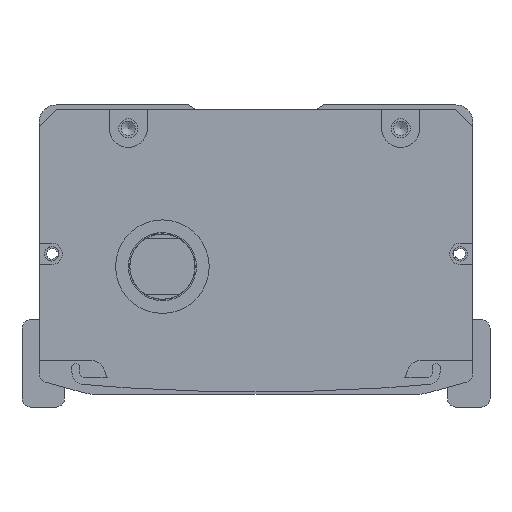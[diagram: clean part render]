
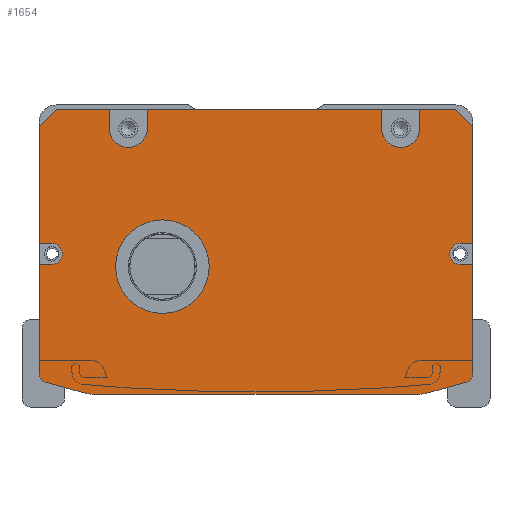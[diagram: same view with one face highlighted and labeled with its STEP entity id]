
A CAD part, front view. The second image highlights one B-rep face of the part: STEP entity #1654.
In plain terms, the highlighted planar face has unit normal (0, -1, 0).
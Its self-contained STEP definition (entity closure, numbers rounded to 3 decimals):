
#990=FACE_BOUND('',#3118,.T.);
#991=FACE_BOUND('',#3119,.T.);
#1654=ADVANCED_FACE('',(#990,#991),#2265,.F.);
#2265=PLANE('',#11995);
#3118=EDGE_LOOP('',(#5507,#5508,#5509,#5510,#5511,#5512,#5513,#5514,#5515,
#5516,#5517,#5518,#5519,#5520,#5521,#5522,#5523,#5524,#5525,#5526,#5527,
#5528,#5529,#5530,#5531,#5532,#5533,#5534));
#3119=EDGE_LOOP('',(#5535));
#4097=CIRCLE('',#11986,4.5);
#4098=CIRCLE('',#11987,4.5);
#4099=CIRCLE('',#11988,2.5);
#4100=CIRCLE('',#11989,2.);
#4101=CIRCLE('',#11990,10.);
#4102=CIRCLE('',#11991,10.);
#4103=CIRCLE('',#11992,2.);
#4104=CIRCLE('',#11993,2.5);
#4105=CIRCLE('',#11994,11.);
#5507=ORIENTED_EDGE('',*,*,#8872,.T.);
#5508=ORIENTED_EDGE('',*,*,#9290,.T.);
#5509=ORIENTED_EDGE('',*,*,#9291,.T.);
#5510=ORIENTED_EDGE('',*,*,#9292,.F.);
#5511=ORIENTED_EDGE('',*,*,#9293,.T.);
#5512=ORIENTED_EDGE('',*,*,#9294,.F.);
#5513=ORIENTED_EDGE('',*,*,#9295,.T.);
#5514=ORIENTED_EDGE('',*,*,#9296,.F.);
#5515=ORIENTED_EDGE('',*,*,#9297,.T.);
#5516=ORIENTED_EDGE('',*,*,#9298,.F.);
#5517=ORIENTED_EDGE('',*,*,#9299,.T.);
#5518=ORIENTED_EDGE('',*,*,#9300,.T.);
#5519=ORIENTED_EDGE('',*,*,#8904,.T.);
#5520=ORIENTED_EDGE('',*,*,#9301,.T.);
#5521=ORIENTED_EDGE('',*,*,#9302,.T.);
#5522=ORIENTED_EDGE('',*,*,#9303,.T.);
#5523=ORIENTED_EDGE('',*,*,#8900,.T.);
#5524=ORIENTED_EDGE('',*,*,#9304,.T.);
#5525=ORIENTED_EDGE('',*,*,#9305,.T.);
#5526=ORIENTED_EDGE('',*,*,#9306,.T.);
#5527=ORIENTED_EDGE('',*,*,#9307,.T.);
#5528=ORIENTED_EDGE('',*,*,#9308,.T.);
#5529=ORIENTED_EDGE('',*,*,#9309,.T.);
#5530=ORIENTED_EDGE('',*,*,#9310,.T.);
#5531=ORIENTED_EDGE('',*,*,#8876,.T.);
#5532=ORIENTED_EDGE('',*,*,#9311,.T.);
#5533=ORIENTED_EDGE('',*,*,#9312,.T.);
#5534=ORIENTED_EDGE('',*,*,#9313,.T.);
#5535=ORIENTED_EDGE('',*,*,#9314,.T.);
#7734=VERTEX_POINT('',#16532);
#7735=VERTEX_POINT('',#16534);
#7738=VERTEX_POINT('',#16540);
#7739=VERTEX_POINT('',#16542);
#7760=VERTEX_POINT('',#16587);
#7761=VERTEX_POINT('',#16589);
#7764=VERTEX_POINT('',#16595);
#7765=VERTEX_POINT('',#16597);
#8030=VERTEX_POINT('',#17394);
#8031=VERTEX_POINT('',#17396);
#8032=VERTEX_POINT('',#17398);
#8033=VERTEX_POINT('',#17400);
#8034=VERTEX_POINT('',#17402);
#8035=VERTEX_POINT('',#17404);
#8036=VERTEX_POINT('',#17406);
#8037=VERTEX_POINT('',#17408);
#8038=VERTEX_POINT('',#17410);
#8039=VERTEX_POINT('',#17412);
#8040=VERTEX_POINT('',#17415);
#8041=VERTEX_POINT('',#17417);
#8042=VERTEX_POINT('',#17420);
#8043=VERTEX_POINT('',#17422);
#8044=VERTEX_POINT('',#17424);
#8045=VERTEX_POINT('',#17426);
#8046=VERTEX_POINT('',#17428);
#8047=VERTEX_POINT('',#17430);
#8048=VERTEX_POINT('',#17433);
#8049=VERTEX_POINT('',#17435);
#8050=VERTEX_POINT('',#17438);
#8872=EDGE_CURVE('',#7735,#7734,#10323,.T.);
#8876=EDGE_CURVE('',#7739,#7738,#10327,.T.);
#8900=EDGE_CURVE('',#7761,#7760,#10351,.T.);
#8904=EDGE_CURVE('',#7765,#7764,#10355,.T.);
#9290=EDGE_CURVE('',#7734,#8030,#10588,.T.);
#9291=EDGE_CURVE('',#8030,#8031,#10589,.T.);
#9292=EDGE_CURVE('',#8032,#8031,#10590,.T.);
#9293=EDGE_CURVE('',#8032,#8033,#4097,.T.);
#9294=EDGE_CURVE('',#8034,#8033,#10591,.T.);
#9295=EDGE_CURVE('',#8034,#8035,#10592,.T.);
#9296=EDGE_CURVE('',#8036,#8035,#10593,.T.);
#9297=EDGE_CURVE('',#8036,#8037,#4098,.T.);
#9298=EDGE_CURVE('',#8038,#8037,#10594,.T.);
#9299=EDGE_CURVE('',#8038,#8039,#10595,.T.);
#9300=EDGE_CURVE('',#8039,#7765,#10596,.T.);
#9301=EDGE_CURVE('',#7764,#8040,#10597,.T.);
#9302=EDGE_CURVE('',#8040,#8041,#4099,.T.);
#9303=EDGE_CURVE('',#8041,#7761,#10598,.T.);
#9304=EDGE_CURVE('',#7760,#8042,#4100,.T.);
#9305=EDGE_CURVE('',#8042,#8043,#10599,.T.);
#9306=EDGE_CURVE('',#8043,#8044,#4101,.T.);
#9307=EDGE_CURVE('',#8044,#8045,#10600,.T.);
#9308=EDGE_CURVE('',#8045,#8046,#4102,.T.);
#9309=EDGE_CURVE('',#8046,#8047,#10601,.T.);
#9310=EDGE_CURVE('',#8047,#7739,#4103,.T.);
#9311=EDGE_CURVE('',#7738,#8048,#10602,.T.);
#9312=EDGE_CURVE('',#8048,#8049,#4104,.T.);
#9313=EDGE_CURVE('',#8049,#7735,#10603,.T.);
#9314=EDGE_CURVE('',#8050,#8050,#4105,.T.);
#10323=LINE('',#16533,#10976);
#10327=LINE('',#16541,#10980);
#10351=LINE('',#16588,#11004);
#10355=LINE('',#16596,#11008);
#10588=LINE('',#17393,#11241);
#10589=LINE('',#17395,#11242);
#10590=LINE('',#17397,#11243);
#10591=LINE('',#17401,#11244);
#10592=LINE('',#17403,#11245);
#10593=LINE('',#17405,#11246);
#10594=LINE('',#17409,#11247);
#10595=LINE('',#17411,#11248);
#10596=LINE('',#17413,#11249);
#10597=LINE('',#17414,#11250);
#10598=LINE('',#17418,#11251);
#10599=LINE('',#17421,#11252);
#10600=LINE('',#17425,#11253);
#10601=LINE('',#17429,#11254);
#10602=LINE('',#17432,#11255);
#10603=LINE('',#17436,#11256);
#10976=VECTOR('',#13198,1.);
#10980=VECTOR('',#13202,1.);
#11004=VECTOR('',#13228,1.);
#11008=VECTOR('',#13232,1.);
#11241=VECTOR('',#14063,1.);
#11242=VECTOR('',#14064,1.);
#11243=VECTOR('',#14065,1.);
#11244=VECTOR('',#14068,1.);
#11245=VECTOR('',#14069,1.);
#11246=VECTOR('',#14070,1.);
#11247=VECTOR('',#14073,1.);
#11248=VECTOR('',#14074,1.);
#11249=VECTOR('',#14075,1.);
#11250=VECTOR('',#14076,1.);
#11251=VECTOR('',#14079,1.);
#11252=VECTOR('',#14082,1.);
#11253=VECTOR('',#14085,1.);
#11254=VECTOR('',#14088,1.);
#11255=VECTOR('',#14091,1.);
#11256=VECTOR('',#14094,1.);
#11986=AXIS2_PLACEMENT_3D('',#17399,#14066,#14067);
#11987=AXIS2_PLACEMENT_3D('',#17407,#14071,#14072);
#11988=AXIS2_PLACEMENT_3D('',#17416,#14077,#14078);
#11989=AXIS2_PLACEMENT_3D('',#17419,#14080,#14081);
#11990=AXIS2_PLACEMENT_3D('',#17423,#14083,#14084);
#11991=AXIS2_PLACEMENT_3D('',#17427,#14086,#14087);
#11992=AXIS2_PLACEMENT_3D('',#17431,#14089,#14090);
#11993=AXIS2_PLACEMENT_3D('',#17434,#14092,#14093);
#11994=AXIS2_PLACEMENT_3D('',#17437,#14095,#14096);
#11995=AXIS2_PLACEMENT_3D('',#17439,#14097,#14098);
#13198=DIRECTION('',(0.,0.,1.));
#13202=DIRECTION('',(0.,0.,1.));
#13228=DIRECTION('',(0.,0.,-1.));
#13232=DIRECTION('',(0.,0.,-1.));
#14063=DIRECTION('',(-0.707,0.,0.707));
#14064=DIRECTION('',(-1.,0.,0.));
#14065=DIRECTION('',(0.,0.,1.));
#14066=DIRECTION('',(0.,1.,0.));
#14067=DIRECTION('',(0.,0.,1.));
#14068=DIRECTION('',(0.,0.,-1.));
#14069=DIRECTION('',(-1.,0.,0.));
#14070=DIRECTION('',(0.,0.,1.));
#14071=DIRECTION('',(0.,1.,0.));
#14072=DIRECTION('',(0.,0.,1.));
#14073=DIRECTION('',(0.,0.,-1.));
#14074=DIRECTION('',(-1.,0.,0.));
#14075=DIRECTION('',(-0.707,0.,-0.707));
#14076=DIRECTION('',(1.,0.,0.));
#14077=DIRECTION('',(0.,1.,0.));
#14078=DIRECTION('',(0.,0.,1.));
#14079=DIRECTION('',(-1.,0.,0.));
#14080=DIRECTION('',(0.,-1.,0.));
#14081=DIRECTION('',(0.,0.,1.));
#14082=DIRECTION('',(0.963,0.,-0.269));
#14083=DIRECTION('',(0.,-1.,0.));
#14084=DIRECTION('',(0.,0.,1.));
#14085=DIRECTION('',(1.,0.,0.));
#14086=DIRECTION('',(0.,-1.,0.));
#14087=DIRECTION('',(0.,0.,-1.));
#14088=DIRECTION('',(0.963,0.,0.269));
#14089=DIRECTION('',(0.,-1.,0.));
#14090=DIRECTION('',(0.,0.,-1.));
#14091=DIRECTION('',(-1.,0.,0.));
#14092=DIRECTION('',(0.,1.,0.));
#14093=DIRECTION('',(0.,0.,1.));
#14094=DIRECTION('',(1.,0.,0.));
#14095=DIRECTION('',(0.,1.,0.));
#14096=DIRECTION('',(0.,0.,1.));
#14097=DIRECTION('',(0.,1.,0.));
#14098=DIRECTION('',(1.,0.,0.));
#16532=CARTESIAN_POINT('',(47.808,-557.5,-5.));
#16533=CARTESIAN_POINT('',(47.808,-557.5,-1.));
#16534=CARTESIAN_POINT('',(47.808,-557.5,-32.5));
#16540=CARTESIAN_POINT('',(47.808,-557.5,-37.5));
#16541=CARTESIAN_POINT('',(47.808,-557.5,-1.));
#16542=CARTESIAN_POINT('',(47.808,-557.5,-63.212));
#16587=CARTESIAN_POINT('',(-54.192,-557.5,-63.212));
#16588=CARTESIAN_POINT('',(-54.192,-557.5,-62.));
#16589=CARTESIAN_POINT('',(-54.192,-557.5,-37.5));
#16595=CARTESIAN_POINT('',(-54.192,-557.5,-32.5));
#16596=CARTESIAN_POINT('',(-54.192,-557.5,-62.));
#16597=CARTESIAN_POINT('',(-54.192,-557.5,-5.));
#17393=CARTESIAN_POINT('',(43.808,-557.5,-1.));
#17394=CARTESIAN_POINT('',(43.808,-557.5,-1.));
#17395=CARTESIAN_POINT('',(-3.192,-557.5,-1.));
#17396=CARTESIAN_POINT('',(35.308,-557.5,-1.));
#17397=CARTESIAN_POINT('',(35.308,-557.5,-1.));
#17398=CARTESIAN_POINT('',(35.308,-557.5,-5.5));
#17399=CARTESIAN_POINT('',(30.808,-557.5,-5.5));
#17400=CARTESIAN_POINT('',(26.308,-557.5,-5.5));
#17401=CARTESIAN_POINT('',(26.308,-557.5,-1.));
#17402=CARTESIAN_POINT('',(26.308,-557.5,-1.));
#17403=CARTESIAN_POINT('',(-54.192,-557.5,-1.));
#17404=CARTESIAN_POINT('',(-28.692,-557.5,-1.));
#17405=CARTESIAN_POINT('',(-28.692,-557.5,-3.5));
#17406=CARTESIAN_POINT('',(-28.692,-557.5,-5.5));
#17407=CARTESIAN_POINT('',(-33.192,-557.5,-5.5));
#17408=CARTESIAN_POINT('',(-37.692,-557.5,-5.5));
#17409=CARTESIAN_POINT('',(-37.692,-557.5,-1.));
#17410=CARTESIAN_POINT('',(-37.692,-557.5,-1.));
#17411=CARTESIAN_POINT('',(-54.192,-557.5,-1.));
#17412=CARTESIAN_POINT('',(-50.192,-557.5,-1.));
#17413=CARTESIAN_POINT('',(-54.192,-557.5,-5.));
#17414=CARTESIAN_POINT('',(-3.192,-557.5,-32.5));
#17415=CARTESIAN_POINT('',(-51.192,-557.5,-32.5));
#17416=CARTESIAN_POINT('',(-51.192,-557.5,-35.));
#17417=CARTESIAN_POINT('',(-51.192,-557.5,-37.5));
#17418=CARTESIAN_POINT('',(-3.192,-557.5,-37.5));
#17419=CARTESIAN_POINT('',(-52.192,-557.5,-63.212));
#17420=CARTESIAN_POINT('',(-52.731,-557.5,-65.138));
#17421=CARTESIAN_POINT('',(-55.807,-557.5,-64.279));
#17422=CARTESIAN_POINT('',(-43.809,-557.5,-67.631));
#17423=CARTESIAN_POINT('',(-41.118,-557.5,-58.));
#17424=CARTESIAN_POINT('',(-41.118,-557.5,-68.));
#17425=CARTESIAN_POINT('',(-54.692,-557.5,-68.));
#17426=CARTESIAN_POINT('',(34.733,-557.5,-68.));
#17427=CARTESIAN_POINT('',(34.733,-557.5,-58.));
#17428=CARTESIAN_POINT('',(37.424,-557.5,-67.631));
#17429=CARTESIAN_POINT('',(49.422,-557.5,-64.279));
#17430=CARTESIAN_POINT('',(46.346,-557.5,-65.138));
#17431=CARTESIAN_POINT('',(45.808,-557.5,-63.212));
#17432=CARTESIAN_POINT('',(-3.192,-557.5,-37.5));
#17433=CARTESIAN_POINT('',(44.808,-557.5,-37.5));
#17434=CARTESIAN_POINT('',(44.808,-557.5,-35.));
#17435=CARTESIAN_POINT('',(44.808,-557.5,-32.5));
#17436=CARTESIAN_POINT('',(-3.192,-557.5,-32.5));
#17437=CARTESIAN_POINT('',(-25.192,-557.5,-38.));
#17438=CARTESIAN_POINT('',(-25.192,-557.5,-27.));
#17439=CARTESIAN_POINT('',(-3.192,-557.5,-1.));
